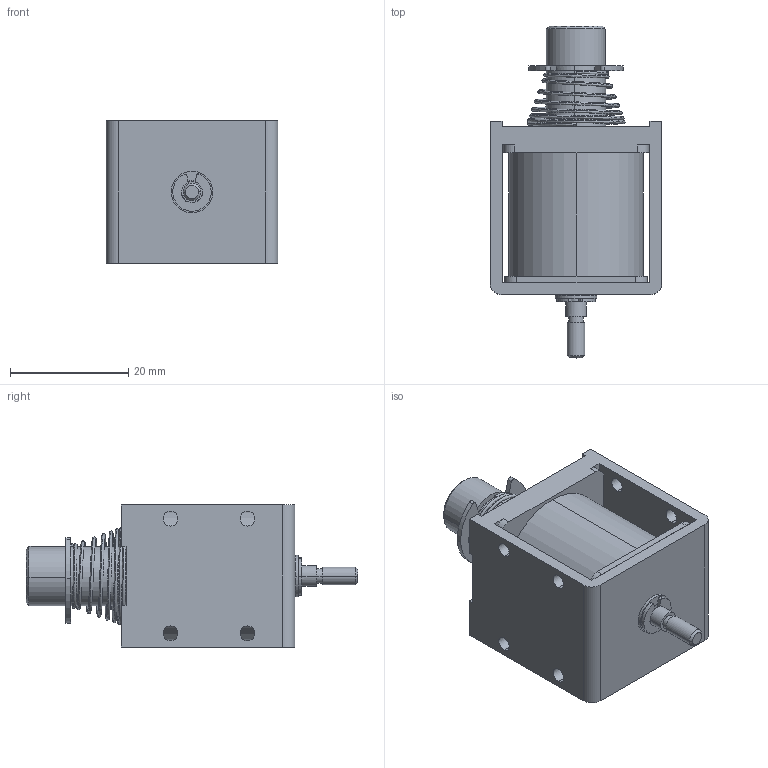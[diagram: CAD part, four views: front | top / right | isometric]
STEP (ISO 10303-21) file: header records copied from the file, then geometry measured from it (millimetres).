
FILE_DESCRIPTION (( 'STEP AP203' ), '1' );
FILE_NAME ('w_cbs1029.STEP', '2014-07-25T02:20:10', ( 'jiba' ), ( 'Hewlett-Packard Company' ), 'SwSTEP 2.0', 'SolidWorks 2014', '' );
FILE_SCHEMA (( 'CONFIG_CONTROL_DESIGN' ));
Length unit declared in the file: millimetre
Products named in the file (4): Part6^w_cbs1029; Part1^w_cbs1029_pl; w_21053081; w_cbs1029
Assembly tree (3 placements, depth 2):
  w_cbs1029
    Part6^w_cbs1029
    Part1^w_cbs1029_pl
    w_21053081
Bounding box: 29 x 56.1 x 24.1 mm (x, y, z)
Volume: 16773 mm3; surface area: 10291.6 mm2
Topology: 3 solids, 3 shells, 173 faces, 473 edges, 308 vertices
Faces by surface type: cylinder 96, plane 71, cone 4, bspline 2
Entity records: 10063 total; most frequent: CARTESIAN_POINT 5008, DIRECTION 1051, ORIENTED_EDGE 946, EDGE_CURVE 473, AXIS2_PLACEMENT_3D 407, VERTEX_POINT 308, LINE 237, VECTOR 237
